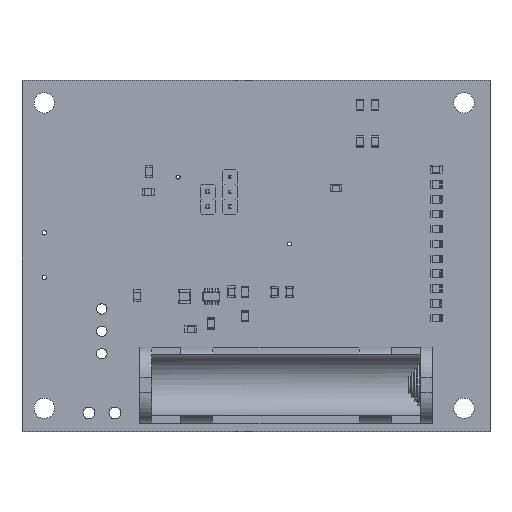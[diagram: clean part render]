
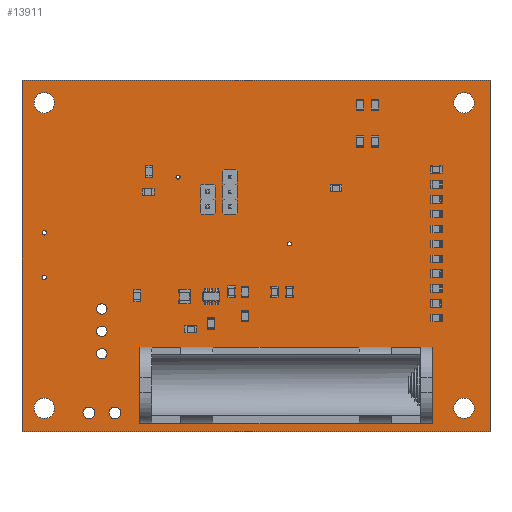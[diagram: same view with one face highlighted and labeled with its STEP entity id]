
A CAD part, top view. The second image highlights one B-rep face of the part: STEP entity #13911.
In plain terms, the highlighted planar face has unit normal (0, 0, 1).
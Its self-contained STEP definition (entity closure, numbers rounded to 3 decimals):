
#13579 = VERTEX_POINT('',#13580);
#13580 = CARTESIAN_POINT('',(0.,0.,1.6));
#13586 = EDGE_CURVE('',#13579,#13587,#13589,.T.);
#13587 = VERTEX_POINT('',#13588);
#13588 = CARTESIAN_POINT('',(-80.,0.,1.6));
#13589 = LINE('',#13590,#13591);
#13590 = CARTESIAN_POINT('',(0.,0.,1.6));
#13591 = VECTOR('',#13592,1.);
#13592 = DIRECTION('',(-1.,0.,0.));
#13619 = VERTEX_POINT('',#13620);
#13620 = CARTESIAN_POINT('',(0.,60.,1.6));
#13626 = EDGE_CURVE('',#13619,#13579,#13627,.T.);
#13627 = LINE('',#13628,#13629);
#13628 = CARTESIAN_POINT('',(0.,60.,1.6));
#13629 = VECTOR('',#13630,1.);
#13630 = DIRECTION('',(0.,-1.,0.));
#13648 = EDGE_CURVE('',#13587,#13649,#13651,.T.);
#13649 = VERTEX_POINT('',#13650);
#13650 = CARTESIAN_POINT('',(-80.,60.,1.6));
#13651 = LINE('',#13652,#13653);
#13652 = CARTESIAN_POINT('',(-80.,0.,1.6));
#13653 = VECTOR('',#13654,1.);
#13654 = DIRECTION('',(0.,1.,0.));
#13911 = ADVANCED_FACE('',(#13912,#13923,#13934,#13945,#13956,#13967,
    #13978,#13989,#14000,#14011,#14022,#14033,#14044,#14055,#14066,
    #14077,#14088,#14099,#14110,#14121,#14132),#14143,.T.);
#13912 = FACE_BOUND('',#13913,.T.);
#13913 = EDGE_LOOP('',(#13914,#13915,#13916,#13922));
#13914 = ORIENTED_EDGE('',*,*,#13586,.F.);
#13915 = ORIENTED_EDGE('',*,*,#13626,.F.);
#13916 = ORIENTED_EDGE('',*,*,#13917,.F.);
#13917 = EDGE_CURVE('',#13649,#13619,#13918,.T.);
#13918 = LINE('',#13919,#13920);
#13919 = CARTESIAN_POINT('',(-80.,60.,1.6));
#13920 = VECTOR('',#13921,1.);
#13921 = DIRECTION('',(1.,0.,0.));
#13922 = ORIENTED_EDGE('',*,*,#13648,.F.);
#13923 = FACE_BOUND('',#13924,.T.);
#13924 = EDGE_LOOP('',(#13925));
#13925 = ORIENTED_EDGE('',*,*,#13926,.F.);
#13926 = EDGE_CURVE('',#13927,#13927,#13929,.T.);
#13927 = VERTEX_POINT('',#13928);
#13928 = CARTESIAN_POINT('',(-74.44,3.965,1.6));
#13929 = CIRCLE('',#13930,1.75);
#13930 = AXIS2_PLACEMENT_3D('',#13931,#13932,#13933);
#13931 = CARTESIAN_POINT('',(-76.19,3.965,1.6));
#13932 = DIRECTION('',(0.,0.,1.));
#13933 = DIRECTION('',(1.,0.,-0.));
#13934 = FACE_BOUND('',#13935,.T.);
#13935 = EDGE_LOOP('',(#13936));
#13936 = ORIENTED_EDGE('',*,*,#13937,.T.);
#13937 = EDGE_CURVE('',#13938,#13938,#13940,.T.);
#13938 = VERTEX_POINT('',#13939);
#13939 = CARTESIAN_POINT('',(-68.57,2.152,1.6));
#13940 = CIRCLE('',#13941,1.016);
#13941 = AXIS2_PLACEMENT_3D('',#13942,#13943,#13944);
#13942 = CARTESIAN_POINT('',(-68.57,3.168,1.6));
#13943 = DIRECTION('',(-0.,0.,-1.));
#13944 = DIRECTION('',(-0.,-1.,0.));
#13945 = FACE_BOUND('',#13946,.T.);
#13946 = EDGE_LOOP('',(#13947));
#13947 = ORIENTED_EDGE('',*,*,#13948,.T.);
#13948 = EDGE_CURVE('',#13949,#13949,#13951,.T.);
#13949 = VERTEX_POINT('',#13950);
#13950 = CARTESIAN_POINT('',(-64.125,2.152,1.6));
#13951 = CIRCLE('',#13952,1.016);
#13952 = AXIS2_PLACEMENT_3D('',#13953,#13954,#13955);
#13953 = CARTESIAN_POINT('',(-64.125,3.168,1.6));
#13954 = DIRECTION('',(-0.,0.,-1.));
#13955 = DIRECTION('',(-0.,-1.,0.));
#13956 = FACE_BOUND('',#13957,.T.);
#13957 = EDGE_LOOP('',(#13958));
#13958 = ORIENTED_EDGE('',*,*,#13959,.T.);
#13959 = EDGE_CURVE('',#13960,#13960,#13962,.T.);
#13960 = VERTEX_POINT('',#13961);
#13961 = CARTESIAN_POINT('',(-66.348,12.439,1.6));
#13962 = CIRCLE('',#13963,0.889);
#13963 = AXIS2_PLACEMENT_3D('',#13964,#13965,#13966);
#13964 = CARTESIAN_POINT('',(-66.348,13.328,1.6));
#13965 = DIRECTION('',(-0.,0.,-1.));
#13966 = DIRECTION('',(-0.,-1.,0.));
#13967 = FACE_BOUND('',#13968,.T.);
#13968 = EDGE_LOOP('',(#13969));
#13969 = ORIENTED_EDGE('',*,*,#13970,.T.);
#13970 = EDGE_CURVE('',#13971,#13971,#13973,.T.);
#13971 = VERTEX_POINT('',#13972);
#13972 = CARTESIAN_POINT('',(-57.215,7.42,1.6));
#13973 = CIRCLE('',#13974,0.51);
#13974 = AXIS2_PLACEMENT_3D('',#13975,#13976,#13977);
#13975 = CARTESIAN_POINT('',(-57.215,7.93,1.6));
#13976 = DIRECTION('',(-0.,0.,-1.));
#13977 = DIRECTION('',(-0.,-1.,0.));
#13978 = FACE_BOUND('',#13979,.T.);
#13979 = EDGE_LOOP('',(#13980));
#13980 = ORIENTED_EDGE('',*,*,#13981,.T.);
#13981 = EDGE_CURVE('',#13982,#13982,#13984,.T.);
#13982 = VERTEX_POINT('',#13983);
#13983 = CARTESIAN_POINT('',(-66.348,16.249,1.6));
#13984 = CIRCLE('',#13985,0.889);
#13985 = AXIS2_PLACEMENT_3D('',#13986,#13987,#13988);
#13986 = CARTESIAN_POINT('',(-66.348,17.138,1.6));
#13987 = DIRECTION('',(-0.,0.,-1.));
#13988 = DIRECTION('',(-0.,-1.,0.));
#13989 = FACE_BOUND('',#13990,.T.);
#13990 = EDGE_LOOP('',(#13991));
#13991 = ORIENTED_EDGE('',*,*,#13992,.T.);
#13992 = EDGE_CURVE('',#13993,#13993,#13995,.T.);
#13993 = VERTEX_POINT('',#13994);
#13994 = CARTESIAN_POINT('',(-66.348,20.059,1.6));
#13995 = CIRCLE('',#13996,0.889);
#13996 = AXIS2_PLACEMENT_3D('',#13997,#13998,#13999);
#13997 = CARTESIAN_POINT('',(-66.348,20.948,1.6));
#13998 = DIRECTION('',(-0.,0.,-1.));
#13999 = DIRECTION('',(-0.,-1.,0.));
#14000 = FACE_BOUND('',#14001,.T.);
#14001 = EDGE_LOOP('',(#14002));
#14002 = ORIENTED_EDGE('',*,*,#14003,.T.);
#14003 = EDGE_CURVE('',#14004,#14004,#14006,.T.);
#14004 = VERTEX_POINT('',#14005);
#14005 = CARTESIAN_POINT('',(-76.19,25.964,1.6));
#14006 = CIRCLE('',#14007,0.381);
#14007 = AXIS2_PLACEMENT_3D('',#14008,#14009,#14010);
#14008 = CARTESIAN_POINT('',(-76.19,26.345,1.6));
#14009 = DIRECTION('',(-0.,0.,-1.));
#14010 = DIRECTION('',(-0.,-1.,0.));
#14011 = FACE_BOUND('',#14012,.T.);
#14012 = EDGE_LOOP('',(#14013));
#14013 = ORIENTED_EDGE('',*,*,#14014,.T.);
#14014 = EDGE_CURVE('',#14015,#14015,#14017,.T.);
#14015 = VERTEX_POINT('',#14016);
#14016 = CARTESIAN_POINT('',(-12.515,7.42,1.6));
#14017 = CIRCLE('',#14018,0.51);
#14018 = AXIS2_PLACEMENT_3D('',#14019,#14020,#14021);
#14019 = CARTESIAN_POINT('',(-12.515,7.93,1.6));
#14020 = DIRECTION('',(-0.,0.,-1.));
#14021 = DIRECTION('',(-0.,-1.,0.));
#14022 = FACE_BOUND('',#14023,.T.);
#14023 = EDGE_LOOP('',(#14024));
#14024 = ORIENTED_EDGE('',*,*,#14025,.F.);
#14025 = EDGE_CURVE('',#14026,#14026,#14028,.T.);
#14026 = VERTEX_POINT('',#14027);
#14027 = CARTESIAN_POINT('',(-2.685,3.965,1.6));
#14028 = CIRCLE('',#14029,1.75);
#14029 = AXIS2_PLACEMENT_3D('',#14030,#14031,#14032);
#14030 = CARTESIAN_POINT('',(-4.435,3.965,1.6));
#14031 = DIRECTION('',(0.,0.,1.));
#14032 = DIRECTION('',(1.,0.,-0.));
#14033 = FACE_BOUND('',#14034,.T.);
#14034 = EDGE_LOOP('',(#14035));
#14035 = ORIENTED_EDGE('',*,*,#14036,.T.);
#14036 = EDGE_CURVE('',#14037,#14037,#14039,.T.);
#14037 = VERTEX_POINT('',#14038);
#14038 = CARTESIAN_POINT('',(-76.19,33.584,1.6));
#14039 = CIRCLE('',#14040,0.381);
#14040 = AXIS2_PLACEMENT_3D('',#14041,#14042,#14043);
#14041 = CARTESIAN_POINT('',(-76.19,33.965,1.6));
#14042 = DIRECTION('',(-0.,0.,-1.));
#14043 = DIRECTION('',(-0.,-1.,0.));
#14044 = FACE_BOUND('',#14045,.T.);
#14045 = EDGE_LOOP('',(#14046));
#14046 = ORIENTED_EDGE('',*,*,#14047,.T.);
#14047 = EDGE_CURVE('',#14048,#14048,#14050,.T.);
#14048 = VERTEX_POINT('',#14049);
#14049 = CARTESIAN_POINT('',(-53.33,43.14,1.6));
#14050 = CIRCLE('',#14051,0.35);
#14051 = AXIS2_PLACEMENT_3D('',#14052,#14053,#14054);
#14052 = CARTESIAN_POINT('',(-53.33,43.49,1.6));
#14053 = DIRECTION('',(-0.,0.,-1.));
#14054 = DIRECTION('',(-0.,-1.,0.));
#14055 = FACE_BOUND('',#14056,.T.);
#14056 = EDGE_LOOP('',(#14057));
#14057 = ORIENTED_EDGE('',*,*,#14058,.T.);
#14058 = EDGE_CURVE('',#14059,#14059,#14061,.T.);
#14059 = VERTEX_POINT('',#14060);
#14060 = CARTESIAN_POINT('',(-48.25,37.91,1.6));
#14061 = CIRCLE('',#14062,0.5);
#14062 = AXIS2_PLACEMENT_3D('',#14063,#14064,#14065);
#14063 = CARTESIAN_POINT('',(-48.25,38.41,1.6));
#14064 = DIRECTION('',(-0.,0.,-1.));
#14065 = DIRECTION('',(-0.,-1.,0.));
#14066 = FACE_BOUND('',#14067,.T.);
#14067 = EDGE_LOOP('',(#14068));
#14068 = ORIENTED_EDGE('',*,*,#14069,.T.);
#14069 = EDGE_CURVE('',#14070,#14070,#14072,.T.);
#14070 = VERTEX_POINT('',#14071);
#14071 = CARTESIAN_POINT('',(-44.44,37.905,1.6));
#14072 = CIRCLE('',#14073,0.5);
#14073 = AXIS2_PLACEMENT_3D('',#14074,#14075,#14076);
#14074 = CARTESIAN_POINT('',(-44.44,38.405,1.6));
#14075 = DIRECTION('',(-0.,0.,-1.));
#14076 = DIRECTION('',(-0.,-1.,0.));
#14077 = FACE_BOUND('',#14078,.T.);
#14078 = EDGE_LOOP('',(#14079));
#14079 = ORIENTED_EDGE('',*,*,#14080,.T.);
#14080 = EDGE_CURVE('',#14081,#14081,#14083,.T.);
#14081 = VERTEX_POINT('',#14082);
#14082 = CARTESIAN_POINT('',(-48.25,40.45,1.6));
#14083 = CIRCLE('',#14084,0.5);
#14084 = AXIS2_PLACEMENT_3D('',#14085,#14086,#14087);
#14085 = CARTESIAN_POINT('',(-48.25,40.95,1.6));
#14086 = DIRECTION('',(-0.,0.,-1.));
#14087 = DIRECTION('',(-0.,-1.,0.));
#14088 = FACE_BOUND('',#14089,.T.);
#14089 = EDGE_LOOP('',(#14090));
#14090 = ORIENTED_EDGE('',*,*,#14091,.T.);
#14091 = EDGE_CURVE('',#14092,#14092,#14094,.T.);
#14092 = VERTEX_POINT('',#14093);
#14093 = CARTESIAN_POINT('',(-44.44,40.445,1.6));
#14094 = CIRCLE('',#14095,0.5);
#14095 = AXIS2_PLACEMENT_3D('',#14096,#14097,#14098);
#14096 = CARTESIAN_POINT('',(-44.44,40.945,1.6));
#14097 = DIRECTION('',(-0.,0.,-1.));
#14098 = DIRECTION('',(-0.,-1.,0.));
#14099 = FACE_BOUND('',#14100,.T.);
#14100 = EDGE_LOOP('',(#14101));
#14101 = ORIENTED_EDGE('',*,*,#14102,.T.);
#14102 = EDGE_CURVE('',#14103,#14103,#14105,.T.);
#14103 = VERTEX_POINT('',#14104);
#14104 = CARTESIAN_POINT('',(-44.44,42.985,1.6));
#14105 = CIRCLE('',#14106,0.5);
#14106 = AXIS2_PLACEMENT_3D('',#14107,#14108,#14109);
#14107 = CARTESIAN_POINT('',(-44.44,43.485,1.6));
#14108 = DIRECTION('',(-0.,0.,-1.));
#14109 = DIRECTION('',(-0.,-1.,0.));
#14110 = FACE_BOUND('',#14111,.T.);
#14111 = EDGE_LOOP('',(#14112));
#14112 = ORIENTED_EDGE('',*,*,#14113,.F.);
#14113 = EDGE_CURVE('',#14114,#14114,#14116,.T.);
#14114 = VERTEX_POINT('',#14115);
#14115 = CARTESIAN_POINT('',(-74.44,56.19,1.6));
#14116 = CIRCLE('',#14117,1.75);
#14117 = AXIS2_PLACEMENT_3D('',#14118,#14119,#14120);
#14118 = CARTESIAN_POINT('',(-76.19,56.19,1.6));
#14119 = DIRECTION('',(0.,0.,1.));
#14120 = DIRECTION('',(1.,0.,-0.));
#14121 = FACE_BOUND('',#14122,.T.);
#14122 = EDGE_LOOP('',(#14123));
#14123 = ORIENTED_EDGE('',*,*,#14124,.T.);
#14124 = EDGE_CURVE('',#14125,#14125,#14127,.T.);
#14125 = VERTEX_POINT('',#14126);
#14126 = CARTESIAN_POINT('',(-34.28,31.71,1.6));
#14127 = CIRCLE('',#14128,0.35);
#14128 = AXIS2_PLACEMENT_3D('',#14129,#14130,#14131);
#14129 = CARTESIAN_POINT('',(-34.28,32.06,1.6));
#14130 = DIRECTION('',(-0.,0.,-1.));
#14131 = DIRECTION('',(-0.,-1.,0.));
#14132 = FACE_BOUND('',#14133,.T.);
#14133 = EDGE_LOOP('',(#14134));
#14134 = ORIENTED_EDGE('',*,*,#14135,.F.);
#14135 = EDGE_CURVE('',#14136,#14136,#14138,.T.);
#14136 = VERTEX_POINT('',#14137);
#14137 = CARTESIAN_POINT('',(-2.685,56.19,1.6));
#14138 = CIRCLE('',#14139,1.75);
#14139 = AXIS2_PLACEMENT_3D('',#14140,#14141,#14142);
#14140 = CARTESIAN_POINT('',(-4.435,56.19,1.6));
#14141 = DIRECTION('',(0.,0.,1.));
#14142 = DIRECTION('',(1.,0.,-0.));
#14143 = PLANE('',#14144);
#14144 = AXIS2_PLACEMENT_3D('',#14145,#14146,#14147);
#14145 = CARTESIAN_POINT('',(0.,0.,1.6));
#14146 = DIRECTION('',(0.,0.,1.));
#14147 = DIRECTION('',(1.,0.,-0.));
